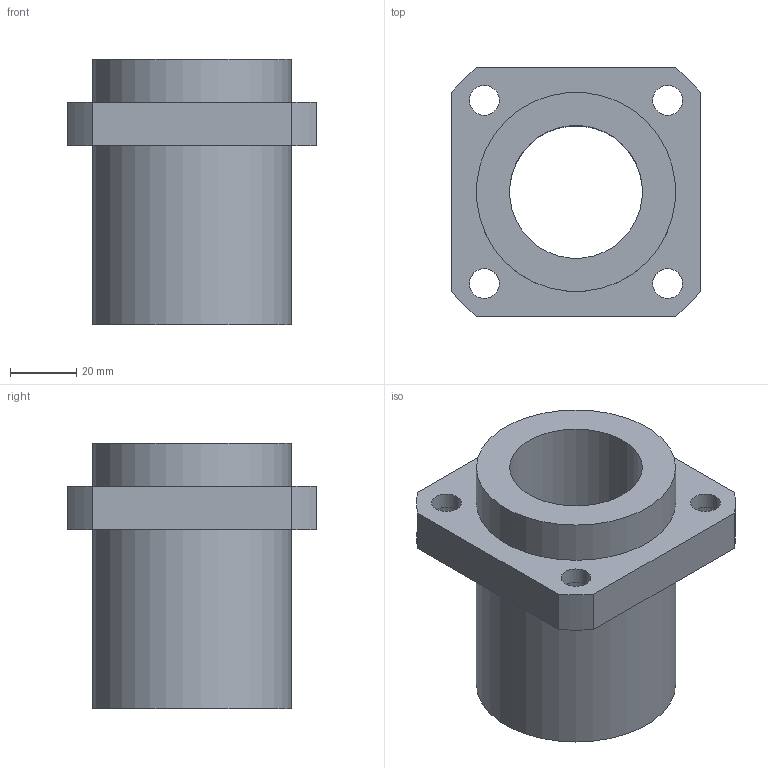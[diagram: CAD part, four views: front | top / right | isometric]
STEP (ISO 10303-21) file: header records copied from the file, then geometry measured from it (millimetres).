
FILE_DESCRIPTION(/* description */ (''),/* implementation_level */ '2;1');
FILE_NAME(/* name */ 'LMKP40UU',/* time_stamp */ '2019-07-10T08:52:06+02:00',/* author */ ('VĂ©gh MĂˇtĂ©'),/* organization */ ('Bearing Kft'),/* preprocessor_version */ 'ST-DEVELOPER v16.7',/* originating_system */ 'DEX',/* authorisation */ $);
FILE_SCHEMA (('AUTOMOTIVE_DESIGN {1 0 10303 214 3 1 1}'));
Length unit declared in the file: millimetre
Products named in the file (1): LMKP40UU
Bounding box: 75 x 75 x 80 mm (x, y, z)
Volume: 154427.2 mm3; surface area: 36366.2 mm2
Topology: 1 solids, 1 shells, 343 faces, 862 edges, 576 vertices
Faces by surface type: plane 267, bspline 59, cylinder 17
Full cylindrical faces by diameter (mm): 9 x4, 14 x4, 40 x1, 60 x2
Entity records: 12980 total; most frequent: CARTESIAN_POINT 5127, ORIENTED_EDGE 1688, DIRECTION 1330, EDGE_CURVE 844, LINE 692, VECTOR 692, VERTEX_POINT 572, EDGE_LOOP 422
